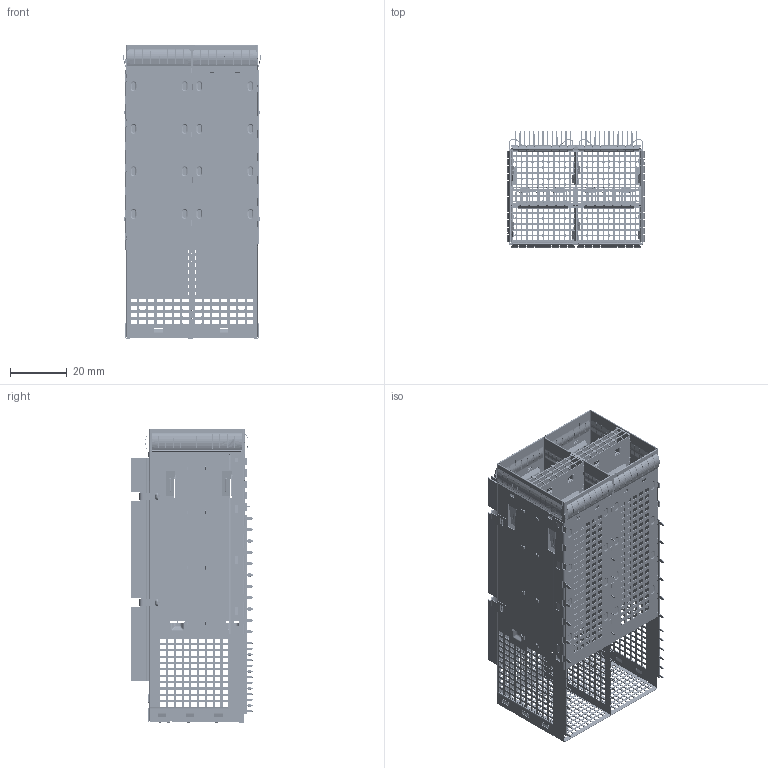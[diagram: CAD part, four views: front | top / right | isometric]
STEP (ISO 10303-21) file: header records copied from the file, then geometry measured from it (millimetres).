
FILE_DESCRIPTION((''),'2;1');
FILE_NAME('1762373501_1_1_1_2','2026-06-25T16:53:38',('39002408'),(''),'CREO PARAMETRIC BY PTC INC, 2019471','CREO PARAMETRIC BY PTC INC, 2019471','');
FILE_SCHEMA(('CONFIG_CONTROL_DESIGN'));
Products named in the file (1): 1762373501_1_1_1_2
Bounding box: 48.46 x 43.2 x 103.93 mm (x, y, z)
Volume: 22858 mm3; surface area: 100608.3 mm2
Topology: 1 solids, 1 shells, 18374 faces, 54428 edges, 35581 vertices
Faces by surface type: plane 9452, cylinder 7511, bspline 748, torus 634, sphere 16, extrusion 13
Entity records: 653428 total; most frequent: CARTESIAN_POINT 149932, ORIENTED_EDGE 108824, DIRECTION 102316, EDGE_CURVE 54412, VECTOR 35904, LINE 35891, VERTEX_POINT 35581, AXIS2_PLACEMENT_3D 33206
